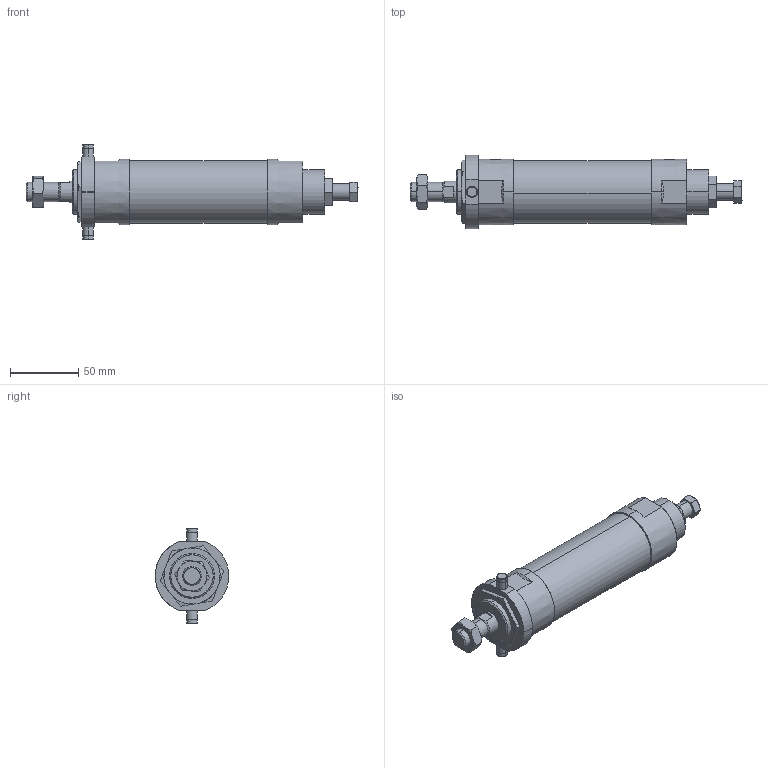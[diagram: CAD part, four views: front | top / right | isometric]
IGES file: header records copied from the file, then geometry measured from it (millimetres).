
Start section: SolidWorks IGES file using analytic representation for surfaces
Global section: file name: C:\Users\Toshiba\Desktop\JGA2-40-50-T.IGS; native system: SolidWorks 2014; preprocessor: SolidWorks 2014; author: Toshiba; date: 160420.131017; units: millimetre
Bounding box: 243.5 x 54 x 70 mm (x, y, z)
Surface area: 49484.8 mm2 (no closed solid volume)
Topology: 0 solids, 0 shells, 151 faces, 2824 edges, 2820 vertices
Faces by surface type: bspline 90, revolution 61
